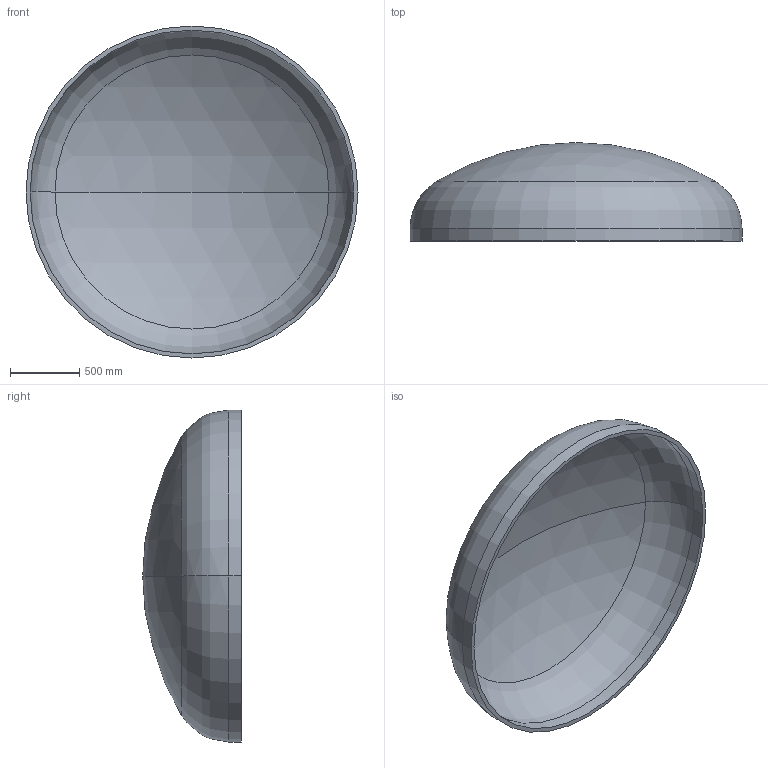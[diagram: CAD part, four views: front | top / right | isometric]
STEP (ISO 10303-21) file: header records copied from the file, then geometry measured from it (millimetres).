
FILE_DESCRIPTION (( 'STEP AP203' ), '1' );
FILE_NAME ('DIN 28013 Korbbogenform_-_Boden DIN 28013 - 2400 x 90 - I - s=30.step', '2016-07-01T15:15:21', ( '' ), ( '' ), 'SwSTEP 2.0', 'SolidWorks 2013', '' );
FILE_SCHEMA (( 'CONFIG_CONTROL_DESIGN' ));
Length unit declared in the file: millimetre
Products named in the file (1): DIN 28013 Korbbogenform_-_Boden DIN 28013 - 2400 x 90 - I - s=30
Bounding box: 2400 x 712.41 x 2400 mm (x, y, z)
Volume: 205027672.2 mm3; surface area: 13893758.8 mm2
Topology: 1 solids, 1 shells, 13 faces, 24 edges, 14 vertices
Faces by surface type: torus 4, cylinder 4, sphere 4, plane 1
Entity records: 407 total; most frequent: DIRECTION 72, CARTESIAN_POINT 52, ORIENTED_EDGE 48, AXIS2_PLACEMENT_3D 34, EDGE_CURVE 24, CIRCLE 20, EDGE_LOOP 14, VERTEX_POINT 14
